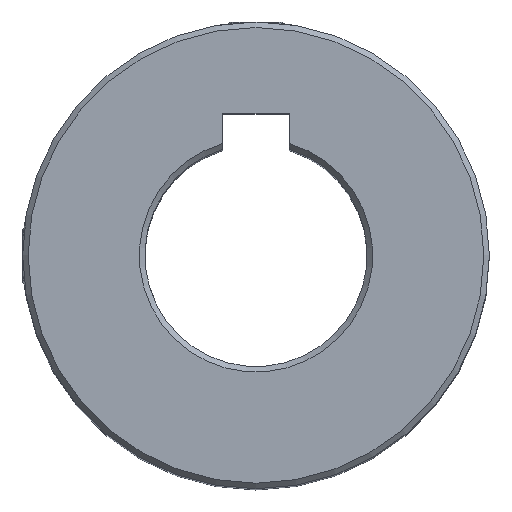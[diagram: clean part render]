
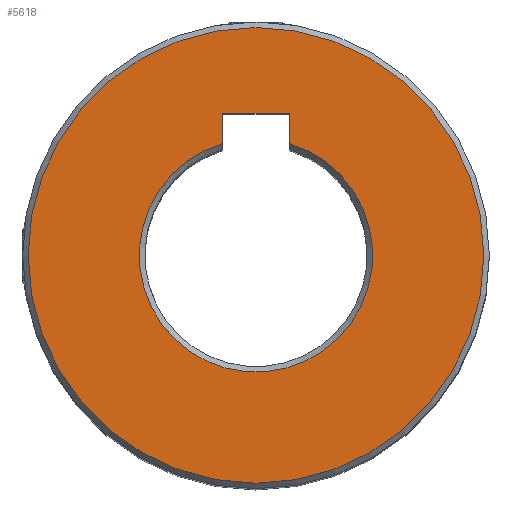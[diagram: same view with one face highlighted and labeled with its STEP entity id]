
A CAD part, top view. The second image highlights one B-rep face of the part: STEP entity #5618.
In plain terms, the highlighted planar face has unit normal (0, 0, 1).
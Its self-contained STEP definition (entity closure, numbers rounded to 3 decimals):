
#33 = CARTESIAN_POINT ( 'NONE',  ( -3., 10.062, 32.5 ) ) ;
#50 = DIRECTION ( 'NONE',  ( 0., 1., 0. ) ) ;
#122 = DIRECTION ( 'NONE',  ( 1., 0., 0. ) ) ;
#130 = DIRECTION ( 'NONE',  ( 1., 0., 0. ) ) ;
#163 = FACE_OUTER_BOUND ( 'NONE', #1104, .T. ) ;
#251 = ORIENTED_EDGE ( 'NONE', *, *, #4232, .F. ) ;
#529 = CARTESIAN_POINT ( 'NONE',  ( 3., 10.062, 32.5 ) ) ;
#599 = DIRECTION ( 'NONE',  ( 0., -1., 0. ) ) ;
#621 = ORIENTED_EDGE ( 'NONE', *, *, #4839, .T. ) ;
#823 = CARTESIAN_POINT ( 'NONE',  ( 0., 0., 32.5 ) ) ;
#1091 = CARTESIAN_POINT ( 'NONE',  ( 0., 0., 32.5 ) ) ;
#1104 = EDGE_LOOP ( 'NONE', ( #1186 ) ) ;
#1186 = ORIENTED_EDGE ( 'NONE', *, *, #5424, .T. ) ;
#1380 = PLANE ( 'NONE',  #5647 ) ;
#1532 = ORIENTED_EDGE ( 'NONE', *, *, #3390, .F. ) ;
#1629 = VECTOR ( 'NONE', #50, 1000. ) ;
#1754 = AXIS2_PLACEMENT_3D ( 'NONE', #823, #6868, #130 ) ;
#1897 = FACE_BOUND ( 'NONE', #5501, .T. ) ;
#2033 = LINE ( 'NONE', #2528, #1629 ) ;
#2528 = CARTESIAN_POINT ( 'NONE',  ( 3., 12.8, 32.5 ) ) ;
#2861 = CARTESIAN_POINT ( 'NONE',  ( 3., 12.8, 32.5 ) ) ;
#3028 = CARTESIAN_POINT ( 'NONE',  ( -3., 12.8, 32.5 ) ) ;
#3272 = ORIENTED_EDGE ( 'NONE', *, *, #4829, .F. ) ;
#3390 = EDGE_CURVE ( 'NONE', #3963, #5066, #4910, .T. ) ;
#3701 = CARTESIAN_POINT ( 'NONE',  ( -3., 12.8, 32.5 ) ) ;
#3827 = CIRCLE ( 'NONE', #4490, 20.5 ) ;
#3867 = VERTEX_POINT ( 'NONE', #5695 ) ;
#3963 = VERTEX_POINT ( 'NONE', #2861 ) ;
#4158 = CARTESIAN_POINT ( 'NONE',  ( -3., 12.8, 32.5 ) ) ;
#4232 = EDGE_CURVE ( 'NONE', #5066, #7281, #7505, .T. ) ;
#4490 = AXIS2_PLACEMENT_3D ( 'NONE', #1091, #5461, #7897 ) ;
#4722 = VERTEX_POINT ( 'NONE', #529 ) ;
#4829 = EDGE_CURVE ( 'NONE', #4722, #3963, #2033, .T. ) ;
#4839 = EDGE_CURVE ( 'NONE', #4722, #7281, #7077, .T. ) ;
#4910 = LINE ( 'NONE', #3028, #6568 ) ;
#5066 = VERTEX_POINT ( 'NONE', #4158 ) ;
#5424 = EDGE_CURVE ( 'NONE', #3867, #3867, #3827, .T. ) ;
#5461 = DIRECTION ( 'NONE',  ( 0., 0., 1. ) ) ;
#5501 = EDGE_LOOP ( 'NONE', ( #251, #1532, #3272, #621 ) ) ;
#5614 = CARTESIAN_POINT ( 'NONE',  ( 0., 0., 32.5 ) ) ;
#5618 = ADVANCED_FACE ( 'NONE', ( #1897, #163 ), #1380, .T. ) ;
#5647 = AXIS2_PLACEMENT_3D ( 'NONE', #5614, #6377, #122 ) ;
#5695 = CARTESIAN_POINT ( 'NONE',  ( 20.5, 0., 32.5 ) ) ;
#5782 = VECTOR ( 'NONE', #599, 1000. ) ;
#6377 = DIRECTION ( 'NONE',  ( 0., 0., 1. ) ) ;
#6568 = VECTOR ( 'NONE', #6750, 1000. ) ;
#6750 = DIRECTION ( 'NONE',  ( -1., 0., 0. ) ) ;
#6868 = DIRECTION ( 'NONE',  ( 0., 0., -1. ) ) ;
#7077 = CIRCLE ( 'NONE', #1754, 10.5 ) ;
#7281 = VERTEX_POINT ( 'NONE', #33 ) ;
#7505 = LINE ( 'NONE', #3701, #5782 ) ;
#7897 = DIRECTION ( 'NONE',  ( 1., 0., 0. ) ) ;
